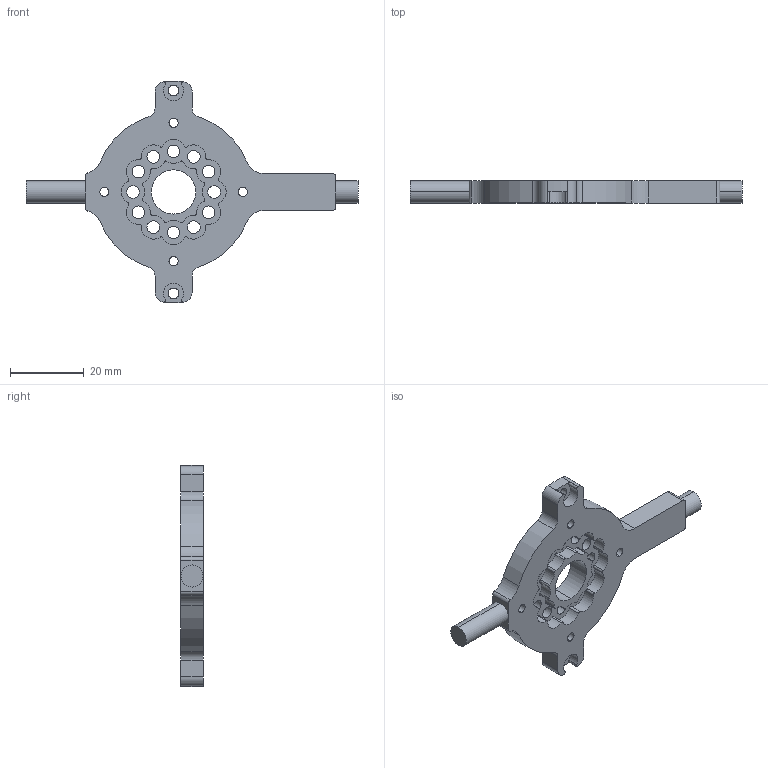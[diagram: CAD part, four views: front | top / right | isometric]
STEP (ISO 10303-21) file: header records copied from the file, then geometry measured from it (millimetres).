
FILE_DESCRIPTION(/* description */ (''),/* implementation_level */ '2;1');
FILE_NAME(/* name */ 'CWC-CY0012-P99_Motor Mounting Plate.stp',/* time_stamp */ '2026-02-27T16:18:25+01:00',/* author */ (''),/* organization */ (''),/* preprocessor_version */ 'ST-DEVELOPER v18.1',/* originating_system */ 'SIEMENS PLM Software NX 1988',/* authorisation */ '');
FILE_SCHEMA (('AUTOMOTIVE_DESIGN { 1 0 10303 214 3 1 1 1 }'));
Length unit declared in the file: millimetre
Products named in the file (1): anto4E0CB30D4gx1
Bounding box: 90 x 6 x 59.99 mm (x, y, z)
Volume: 9344.3 mm3; surface area: 6327.3 mm2
Topology: 1 solids, 1 shells, 123 faces, 353 edges, 234 vertices
Faces by surface type: cylinder 105, plane 18
Full cylindrical faces by diameter (mm): 2.9 x2, 3.4 x12
Entity records: 4191 total; most frequent: DIRECTION 805, CARTESIAN_POINT 697, ORIENTED_EDGE 678, AXIS2_PLACEMENT_3D 342, EDGE_CURVE 339, VERTEX_POINT 234, CIRCLE 218, EDGE_LOOP 177
